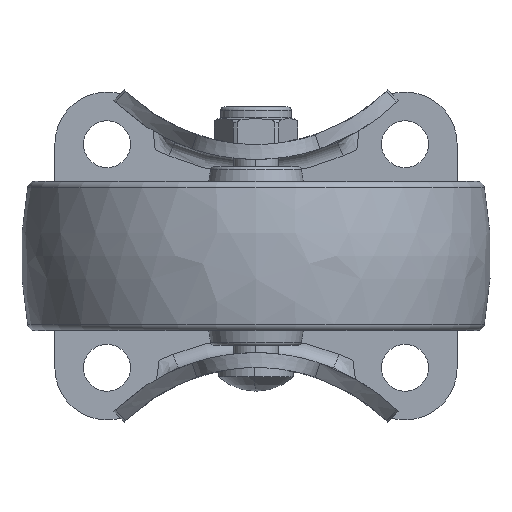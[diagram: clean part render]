
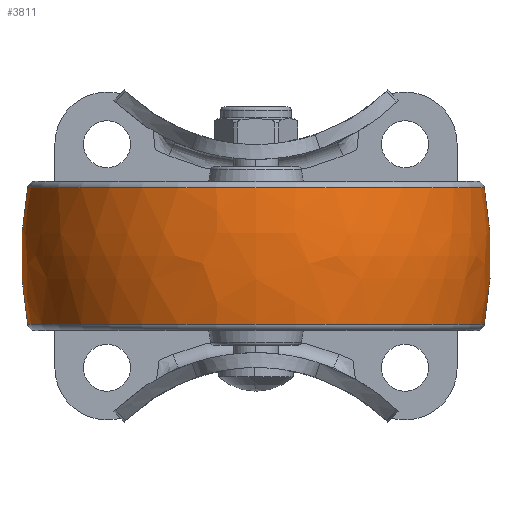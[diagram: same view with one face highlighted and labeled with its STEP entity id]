
A CAD part, front view. The second image highlights one B-rep face of the part: STEP entity #3811.
In plain terms, the highlighted free-form (B-spline) face has degree [3, 3] with [7, 4] control points.
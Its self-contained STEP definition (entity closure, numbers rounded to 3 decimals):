
#3427=CARTESIAN_POINT('',(0.,-18.5,0.));
#3428=DIRECTION('',(0.,0.,1.));
#3429=DIRECTION('',(0.184,0.983,0.));
#3430=AXIS2_PLACEMENT_3D('',#3427,#3428,#3429);
#3432=CARTESIAN_POINT('',(0.,18.5,0.));
#3433=DIRECTION('',(0.,0.,-1.));
#3434=DIRECTION('',(0.184,-0.983,0.));
#3435=AXIS2_PLACEMENT_3D('',#3432,#3433,#3434);
#3437=CARTESIAN_POINT('',(9.184,0.,0.));
#3438=DIRECTION('',(-1.,0.,0.));
#3439=DIRECTION('',(0.,1.,0.));
#3440=AXIS2_PLACEMENT_3D('',#3437,#3438,#3439);
#3462=CARTESIAN_POINT('',(-9.184,0.,0.));
#3463=DIRECTION('',(-1.,0.,0.));
#3464=DIRECTION('',(0.,1.,0.));
#3465=AXIS2_PLACEMENT_3D('',#3462,#3463,#3464);
#3556=CARTESIAN_POINT('',(9.184,30.649,0.));
#3558=VERTEX_POINT('',#3556);
#3559=CARTESIAN_POINT('',(-9.184,30.649,0.));
#3560=VERTEX_POINT('',#3559);
#3584=CARTESIAN_POINT('',(9.184,-30.649,0.));
#3586=VERTEX_POINT('',#3584);
#3587=CARTESIAN_POINT('',(-9.184,-30.649,0.));
#3588=VERTEX_POINT('',#3587);
#3773=CARTESIAN_POINT('',(-9.547,-30.52,
1.92));
#3774=CARTESIAN_POINT('',(-3.222,-31.748,
1.997));
#3775=CARTESIAN_POINT('',(3.222,-31.748,1.997));
#3776=CARTESIAN_POINT('',(9.547,-30.52,1.92));
#3777=CARTESIAN_POINT('',(-9.547,-31.701,
-16.862));
#3778=CARTESIAN_POINT('',(-3.222,-32.977,
-17.54));
#3779=CARTESIAN_POINT('',(3.222,-32.977,
-17.54));
#3780=CARTESIAN_POINT('',(9.547,-31.701,
-16.862));
#3781=CARTESIAN_POINT('',(-9.547,-18.819,
-30.58));
#3782=CARTESIAN_POINT('',(-3.222,-19.576,
-31.81));
#3783=CARTESIAN_POINT('',(3.222,-19.576,
-31.81));
#3784=CARTESIAN_POINT('',(9.547,-18.819,
-30.58));
#3785=CARTESIAN_POINT('',(-9.547,0.,-30.58));
#3786=CARTESIAN_POINT('',(-3.222,0.,
-31.81));
#3787=CARTESIAN_POINT('',(3.222,0.,
-31.81));
#3788=CARTESIAN_POINT('',(9.547,0.,
-30.58));
#3789=CARTESIAN_POINT('',(-9.547,18.819,
-30.58));
#3790=CARTESIAN_POINT('',(-3.222,19.576,
-31.81));
#3791=CARTESIAN_POINT('',(3.222,19.576,-31.81));
#3792=CARTESIAN_POINT('',(9.547,18.819,-30.58));
#3793=CARTESIAN_POINT('',(-9.547,31.701,
-16.862));
#3794=CARTESIAN_POINT('',(-3.222,32.977,
-17.54));
#3795=CARTESIAN_POINT('',(3.222,32.977,-17.54));
#3796=CARTESIAN_POINT('',(9.547,31.701,-16.862));
#3797=CARTESIAN_POINT('',(-9.547,30.52,1.92));
#3798=CARTESIAN_POINT('',(-3.222,31.748,1.997));
#3799=CARTESIAN_POINT('',(3.222,31.748,1.997));
#3800=CARTESIAN_POINT('',(9.547,30.52,1.92));
#3801=(BOUNDED_SURFACE()B_SPLINE_SURFACE(3,3,((#3773,#3774,#3775,#3776),(#3777,
#3778,#3779,#3780),(#3781,#3782,#3783,#3784),(#3785,#3786,#3787,#3788),(#3789,
#3790,#3791,#3792),(#3793,#3794,#3795,#3796),(#3797,#3798,#3799,#3800)),
.UNSPECIFIED.,.F.,.F.,.F.)B_SPLINE_SURFACE_WITH_KNOTS((4,3,4),(4,4),(0.,1.,
2.),(0.,1.),.UNSPECIFIED.)GEOMETRIC_REPRESENTATION_ITEM()RATIONAL_B_SPLINE_SURFACE(((1.198,1.184,1.184,1.198),(
0.946,0.935,0.935,0.946),(
0.946,0.935,0.935,0.946),(
1.198,1.184,1.184,1.198),(
0.946,0.935,0.935,0.946),(
0.946,0.935,0.935,0.946),(
1.198,1.184,1.184,1.198)))REPRESENTATION_ITEM('')SURFACE());
#3803=ORIENTED_EDGE('',*,*,#3802,.T.);
#3805=ORIENTED_EDGE('',*,*,#3804,.T.);
#3807=ORIENTED_EDGE('',*,*,#3806,.F.);
#3808=ORIENTED_EDGE('',*,*,#3766,.F.);
#3809=EDGE_LOOP('',(#3803,#3805,#3807,#3808));
#3810=FACE_OUTER_BOUND('',#3809,.F.);
#3431=CIRCLE('',#3430,50.);
#3436=CIRCLE('',#3435,50.);
#3441=CIRCLE('',#3440,30.649);
#3466=CIRCLE('',#3465,30.649);
#3766=EDGE_CURVE('',#3558,#3586,#3441,.T.);
#3802=EDGE_CURVE('',#3558,#3560,#3431,.T.);
#3804=EDGE_CURVE('',#3560,#3588,#3466,.T.);
#3806=EDGE_CURVE('',#3586,#3588,#3436,.T.);
#3811=ADVANCED_FACE('',(#3810),#3801,.T.);
